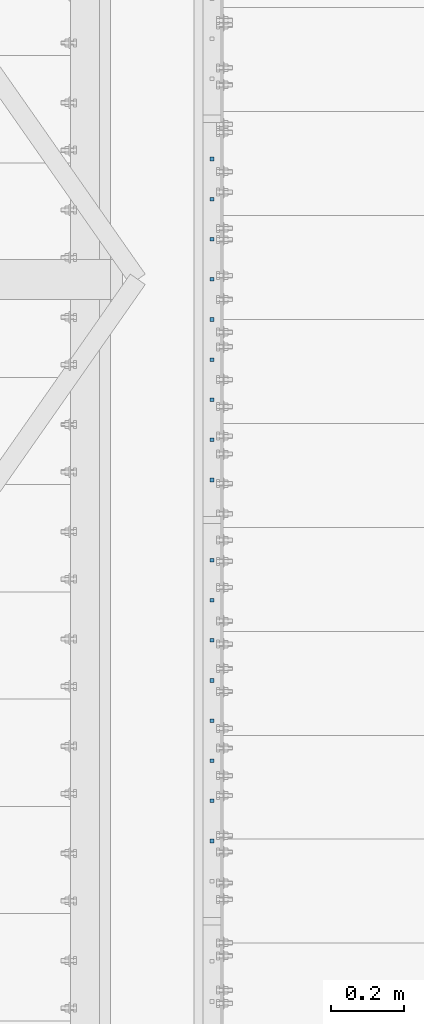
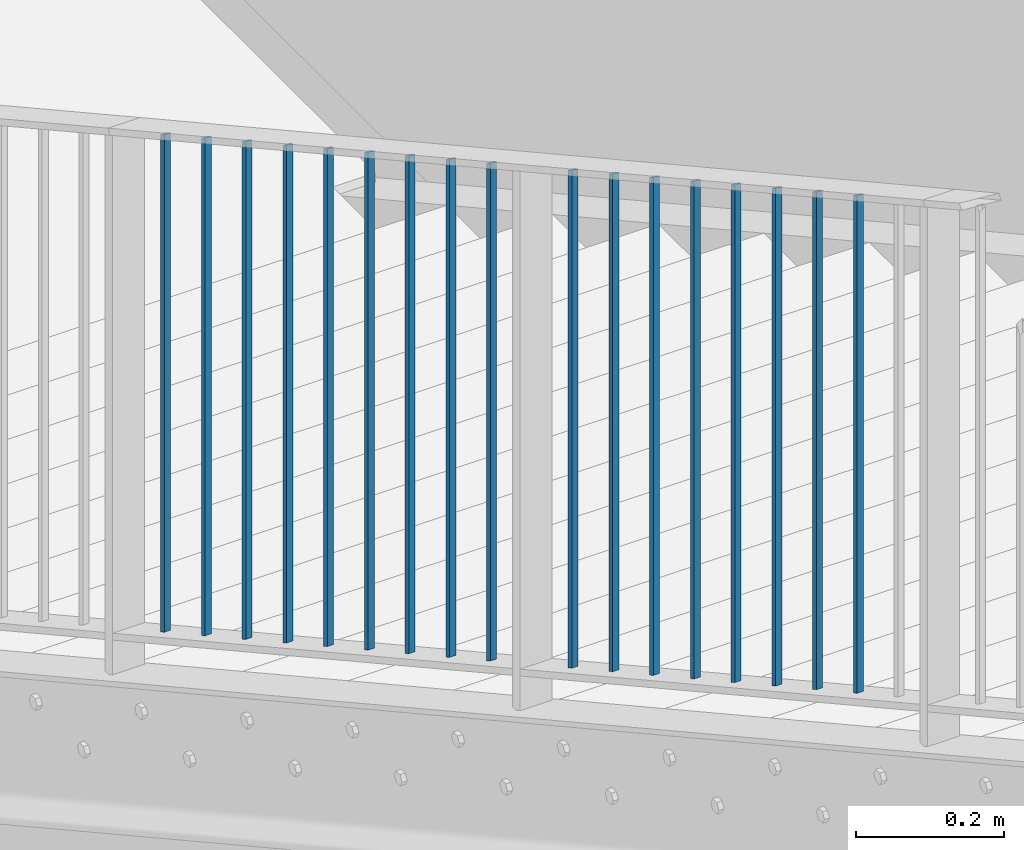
# One storey, part 41 of 78: 17 beams, 1 element without a shape of its own.
"""IFC2X3 building model written with IfcOpenShell, lengths in millimetres."""

from ifc_helpers import new_model, si_unit, frame, origin_with_axes, origin_2d_with_axis, place, context, subcontext, project, spatial, rectangle, extrude, clip, halfspace, material, type_object, element, aggregate, save


model = new_model("IFC2X3")

# Units and contexts
model_context = context("Model", 3, precision=1e-05, world=origin_with_axes())
body_context = subcontext(model_context, "Body", "Model", "MODEL_VIEW")
ifc_project = project(units=[si_unit("LENGTHUNIT", "METRE", prefix="MILLI"), si_unit("AREAUNIT", "SQUARE_METRE"), si_unit("VOLUMEUNIT", "CUBIC_METRE"), si_unit("MASSUNIT", "GRAM", prefix="KILO"), si_unit("TIMEUNIT", "SECOND"), si_unit("PLANEANGLEUNIT", "RADIAN"), si_unit("SOLIDANGLEUNIT", "STERADIAN"), si_unit("THERMODYNAMICTEMPERATUREUNIT", "DEGREE_CELSIUS"), si_unit("LUMINOUSINTENSITYUNIT", "LUMEN")], contexts=[model_context])

# Site, building, storey
site_placement = place(None, origin_with_axes())
site = spatial("IfcSite", under=ifc_project, at=site_placement, Name="Site", CompositionType="ELEMENT")
building_placement = place(site_placement, origin_with_axes())
building = spatial("IfcBuilding", under=site, at=building_placement, Name="Undefined", CompositionType="ELEMENT")
storey_placement = place(building_placement, origin_with_axes())
storey = spatial("IfcBuildingStorey", under=building, at=storey_placement, Name="Undefined", CompositionType="ELEMENT", Elevation=0.0)

# Assembly, beams
assembly_placement = place(storey_placement, origin_with_axes())
assembly = element("IfcElementAssembly", 1, at=assembly_placement, inside=storey, Name="MAIN_COURANTE", AssemblyPlace="NOTDEFINED", PredefinedType="RIGID_FRAME")
ifc_material = material(Name="STEEL/S235JR")
beam_type = type_object("IfcBeamType", Name="PL10*10", PredefinedType="NOTDEFINED")
beam_1_placement = place(assembly_placement, frame((-33012.8599999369, 5467.99999991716, 160109.590452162), z_axis=(1.0, 0.0, 0.0), x_axis=(0.0, 0.0, -1.0)))
beam_1 = element("IfcBeam", 2, at=beam_1_placement, type_object=beam_type, material=ifc_material, Name="LISSE", ObjectType="PL10*10", context=body_context, shape_type="Clipping", body=[
    clip(clip(extrude(rectangle(XDim=10.0, YDim=10.0, at=origin_2d_with_axis()), frame((831.449999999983, 0.0, 0.0), z_axis=(-1.0, 0.0, 0.0), x_axis=(0.0, -1.0, 0.0)), (0.0, 0.0, 1.0), 831.45), halfspace(frame((825.737291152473, 9.09494701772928e-13, 1005.0), z_axis=(0.875241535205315, -0.48368611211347, 0.0), x_axis=(0.48368611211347, 0.875241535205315, 0.0)), False)), halfspace(frame((5.71270869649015, 9.09494701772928e-13, 1005.0), z_axis=(-0.875241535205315, 0.483686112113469, 0.0), x_axis=(-0.483686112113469, -0.875241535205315, 0.0)), False)),
])
beam_2_placement = place(assembly_placement, frame((-33012.8599999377, 5577.99999991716, 160048.800978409), z_axis=(1.0, 0.0, 0.0), x_axis=(0.0, 0.0, -1.0)))
beam_2 = element("IfcBeam", 3, at=beam_2_placement, type_object=beam_type, material=ifc_material, Name="LISSE", ObjectType="PL10*10", context=body_context, shape_type="Clipping", body=[
    clip(clip(extrude(rectangle(XDim=10.0, YDim=10.0, at=origin_2d_with_axis()), frame((831.449999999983, 0.0, 0.0), z_axis=(-1.0, 0.0, 0.0), x_axis=(0.0, -1.0, 0.0)), (0.0, 0.0, 1.0), 831.45), halfspace(frame((825.737291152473, 9.09494701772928e-13, 1005.0), z_axis=(0.875241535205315, -0.48368611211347, 0.0), x_axis=(0.48368611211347, 0.875241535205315, 0.0)), False)), halfspace(frame((5.71270869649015, 9.09494701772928e-13, 1005.0), z_axis=(-0.875241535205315, 0.483686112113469, 0.0), x_axis=(-0.483686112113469, -0.875241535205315, 0.0)), False)),
])
beam_3_placement = place(assembly_placement, frame((-33012.8599999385, 5687.99999991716, 159988.011504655), z_axis=(1.0, 0.0, 0.0), x_axis=(0.0, 0.0, -1.0)))
beam_3 = element("IfcBeam", 4, at=beam_3_placement, type_object=beam_type, material=ifc_material, Name="LISSE", ObjectType="PL10*10", context=body_context, shape_type="Clipping", body=[
    clip(clip(extrude(rectangle(XDim=10.0, YDim=10.0, at=origin_2d_with_axis()), frame((831.449999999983, 0.0, 0.0), z_axis=(-1.0, 0.0, 0.0), x_axis=(0.0, -1.0, 0.0)), (0.0, 0.0, 1.0), 831.45), halfspace(frame((825.737291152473, 9.09494701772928e-13, 1005.0), z_axis=(0.875241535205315, -0.48368611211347, 0.0), x_axis=(0.48368611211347, 0.875241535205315, 0.0)), False)), halfspace(frame((5.71270869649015, 9.09494701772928e-13, 1005.0), z_axis=(-0.875241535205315, 0.483686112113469, 0.0), x_axis=(-0.483686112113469, -0.875241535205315, 0.0)), False)),
])
beam_4_placement = place(assembly_placement, frame((-33012.8599999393, 5797.99999991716, 159927.222030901), z_axis=(1.0, 0.0, 0.0), x_axis=(0.0, 0.0, -1.0)))
beam_4 = element("IfcBeam", 5, at=beam_4_placement, type_object=beam_type, material=ifc_material, Name="LISSE", ObjectType="PL10*10", context=body_context, shape_type="Clipping", body=[
    clip(clip(extrude(rectangle(XDim=10.0, YDim=10.0, at=origin_2d_with_axis()), frame((831.449999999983, 0.0, 0.0), z_axis=(-1.0, 0.0, 0.0), x_axis=(0.0, -1.0, 0.0)), (0.0, 0.0, 1.0), 831.45), halfspace(frame((825.737291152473, 9.09494701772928e-13, 1005.0), z_axis=(0.875241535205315, -0.48368611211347, 0.0), x_axis=(0.48368611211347, 0.875241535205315, 0.0)), False)), halfspace(frame((5.71270869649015, 9.09494701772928e-13, 1005.0), z_axis=(-0.875241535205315, 0.483686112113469, 0.0), x_axis=(-0.483686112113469, -0.875241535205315, 0.0)), False)),
])
beam_5_placement = place(assembly_placement, frame((-33012.8599999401, 5907.99999991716, 159866.432557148), z_axis=(1.0, 0.0, 0.0), x_axis=(0.0, 0.0, -1.0)))
beam_5 = element("IfcBeam", 6, at=beam_5_placement, type_object=beam_type, material=ifc_material, Name="LISSE", ObjectType="PL10*10", context=body_context, shape_type="Clipping", body=[
    clip(clip(extrude(rectangle(XDim=10.0, YDim=10.0, at=origin_2d_with_axis()), frame((831.449999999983, 0.0, 0.0), z_axis=(-1.0, 0.0, 0.0), x_axis=(0.0, -1.0, 0.0)), (0.0, 0.0, 1.0), 831.45), halfspace(frame((825.737291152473, 9.09494701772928e-13, 1005.0), z_axis=(0.875241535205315, -0.48368611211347, 0.0), x_axis=(0.48368611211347, 0.875241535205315, 0.0)), False)), halfspace(frame((5.71270869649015, 9.09494701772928e-13, 1005.0), z_axis=(-0.875241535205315, 0.483686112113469, 0.0), x_axis=(-0.483686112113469, -0.875241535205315, 0.0)), False)),
])
beam_6_placement = place(assembly_placement, frame((-33012.8599999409, 6017.99999991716, 159805.643083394), z_axis=(1.0, 0.0, 0.0), x_axis=(0.0, 0.0, -1.0)))
beam_6 = element("IfcBeam", 7, at=beam_6_placement, type_object=beam_type, material=ifc_material, Name="LISSE", ObjectType="PL10*10", context=body_context, shape_type="Clipping", body=[
    clip(clip(extrude(rectangle(XDim=10.0, YDim=10.0, at=origin_2d_with_axis()), frame((831.449999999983, 0.0, 0.0), z_axis=(-1.0, 0.0, 0.0), x_axis=(0.0, -1.0, 0.0)), (0.0, 0.0, 1.0), 831.45), halfspace(frame((825.737291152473, 9.09494701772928e-13, 1005.0), z_axis=(0.875241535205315, -0.48368611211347, 0.0), x_axis=(0.48368611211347, 0.875241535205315, 0.0)), False)), halfspace(frame((5.71270869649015, 9.09494701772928e-13, 1005.0), z_axis=(-0.875241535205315, 0.483686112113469, 0.0), x_axis=(-0.483686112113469, -0.875241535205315, 0.0)), False)),
])
beam_7_placement = place(assembly_placement, frame((-33012.8599999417, 6127.99999991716, 159744.85360964), z_axis=(1.0, 0.0, 0.0), x_axis=(0.0, 0.0, -1.0)))
beam_7 = element("IfcBeam", 8, at=beam_7_placement, type_object=beam_type, material=ifc_material, Name="LISSE", ObjectType="PL10*10", context=body_context, shape_type="Clipping", body=[
    clip(clip(extrude(rectangle(XDim=10.0, YDim=10.0, at=origin_2d_with_axis()), frame((831.449999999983, 0.0, 0.0), z_axis=(-1.0, 0.0, 0.0), x_axis=(0.0, -1.0, 0.0)), (0.0, 0.0, 1.0), 831.45), halfspace(frame((825.737291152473, 9.09494701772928e-13, 1005.0), z_axis=(0.875241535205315, -0.48368611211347, 0.0), x_axis=(0.48368611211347, 0.875241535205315, 0.0)), False)), halfspace(frame((5.71270869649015, 9.09494701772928e-13, 1005.0), z_axis=(-0.875241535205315, 0.483686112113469, 0.0), x_axis=(-0.483686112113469, -0.875241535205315, 0.0)), False)),
])
beam_8_placement = place(assembly_placement, frame((-33012.8599999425, 6237.99999991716, 159684.064135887), z_axis=(1.0, 0.0, 0.0), x_axis=(0.0, 0.0, -1.0)))
beam_8 = element("IfcBeam", 9, at=beam_8_placement, type_object=beam_type, material=ifc_material, Name="LISSE", ObjectType="PL10*10", context=body_context, shape_type="Clipping", body=[
    clip(clip(extrude(rectangle(XDim=10.0, YDim=10.0, at=origin_2d_with_axis()), frame((831.449999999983, 0.0, 0.0), z_axis=(-1.0, 0.0, 0.0), x_axis=(0.0, -1.0, 0.0)), (0.0, 0.0, 1.0), 831.45), halfspace(frame((825.737291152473, 9.09494701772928e-13, 1005.0), z_axis=(0.875241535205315, -0.48368611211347, 0.0), x_axis=(0.48368611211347, 0.875241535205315, 0.0)), False)), halfspace(frame((5.71270869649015, 9.09494701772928e-13, 1005.0), z_axis=(-0.875241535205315, 0.483686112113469, 0.0), x_axis=(-0.483686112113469, -0.875241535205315, 0.0)), False)),
])
beam_9_placement = place(assembly_placement, frame((-33012.8599999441, 6457.99999989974, 159562.485188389), z_axis=(1.0, 0.0, 0.0), x_axis=(0.0, 0.0, -1.0)))
beam_9 = element("IfcBeam", 10, at=beam_9_placement, type_object=beam_type, material=ifc_material, Name="LISSE", ObjectType="PL10*10", context=body_context, shape_type="Clipping", body=[
    clip(clip(extrude(rectangle(XDim=10.0, YDim=10.0, at=origin_2d_with_axis()), frame((831.449999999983, 0.0, 0.0), z_axis=(-1.0, 0.0, 0.0), x_axis=(0.0, -1.0, 0.0)), (0.0, 0.0, 1.0), 831.45), halfspace(frame((825.737291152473, 9.09494701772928e-13, 1005.0), z_axis=(0.875241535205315, -0.48368611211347, 0.0), x_axis=(0.48368611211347, 0.875241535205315, 0.0)), False)), halfspace(frame((5.71270869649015, 9.09494701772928e-13, 1005.0), z_axis=(-0.875241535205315, 0.483686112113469, 0.0), x_axis=(-0.483686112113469, -0.875241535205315, 0.0)), False)),
])
beam_10_placement = place(assembly_placement, frame((-33012.8599999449, 6567.99999989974, 159501.695714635), z_axis=(1.0, 0.0, 0.0), x_axis=(0.0, 0.0, -1.0)))
beam_10 = element("IfcBeam", 11, at=beam_10_placement, type_object=beam_type, material=ifc_material, Name="LISSE", ObjectType="PL10*10", context=body_context, shape_type="Clipping", body=[
    clip(clip(extrude(rectangle(XDim=10.0, YDim=10.0, at=origin_2d_with_axis()), frame((831.449999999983, 0.0, 0.0), z_axis=(-1.0, 0.0, 0.0), x_axis=(0.0, -1.0, 0.0)), (0.0, 0.0, 1.0), 831.45), halfspace(frame((825.737291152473, 9.09494701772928e-13, 1005.0), z_axis=(0.875241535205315, -0.48368611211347, 0.0), x_axis=(0.48368611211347, 0.875241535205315, 0.0)), False)), halfspace(frame((5.71270869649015, 9.09494701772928e-13, 1005.0), z_axis=(-0.875241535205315, 0.483686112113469, 0.0), x_axis=(-0.483686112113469, -0.875241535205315, 0.0)), False)),
])
beam_11_placement = place(assembly_placement, frame((-33012.8599999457, 6677.99999989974, 159440.906240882), z_axis=(1.0, 0.0, 0.0), x_axis=(0.0, 0.0, -1.0)))
beam_11 = element("IfcBeam", 12, at=beam_11_placement, type_object=beam_type, material=ifc_material, Name="LISSE", ObjectType="PL10*10", context=body_context, shape_type="Clipping", body=[
    clip(clip(extrude(rectangle(XDim=10.0, YDim=10.0, at=origin_2d_with_axis()), frame((831.449999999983, 0.0, 0.0), z_axis=(-1.0, 0.0, 0.0), x_axis=(0.0, -1.0, 0.0)), (0.0, 0.0, 1.0), 831.45), halfspace(frame((825.737291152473, 9.09494701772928e-13, 1005.0), z_axis=(0.875241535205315, -0.48368611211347, 0.0), x_axis=(0.48368611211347, 0.875241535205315, 0.0)), False)), halfspace(frame((5.71270869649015, 9.09494701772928e-13, 1005.0), z_axis=(-0.875241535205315, 0.483686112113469, 0.0), x_axis=(-0.483686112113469, -0.875241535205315, 0.0)), False)),
])
beam_12_placement = place(assembly_placement, frame((-33012.8599999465, 6787.99999989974, 159380.116767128), z_axis=(1.0, 0.0, 0.0), x_axis=(0.0, 0.0, -1.0)))
beam_12 = element("IfcBeam", 13, at=beam_12_placement, type_object=beam_type, material=ifc_material, Name="LISSE", ObjectType="PL10*10", context=body_context, shape_type="Clipping", body=[
    clip(clip(extrude(rectangle(XDim=10.0, YDim=10.0, at=origin_2d_with_axis()), frame((831.449999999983, 0.0, 0.0), z_axis=(-1.0, 0.0, 0.0), x_axis=(0.0, -1.0, 0.0)), (0.0, 0.0, 1.0), 831.45), halfspace(frame((825.737291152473, 9.09494701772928e-13, 1005.0), z_axis=(0.875241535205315, -0.48368611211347, 0.0), x_axis=(0.48368611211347, 0.875241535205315, 0.0)), False)), halfspace(frame((5.71270869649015, 9.09494701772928e-13, 1005.0), z_axis=(-0.875241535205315, 0.483686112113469, 0.0), x_axis=(-0.483686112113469, -0.875241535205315, 0.0)), False)),
])
beam_13_placement = place(assembly_placement, frame((-33012.8599999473, 6897.99999989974, 159319.327293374), z_axis=(1.0, 0.0, 0.0), x_axis=(0.0, 0.0, -1.0)))
beam_13 = element("IfcBeam", 14, at=beam_13_placement, type_object=beam_type, material=ifc_material, Name="LISSE", ObjectType="PL10*10", context=body_context, shape_type="Clipping", body=[
    clip(clip(extrude(rectangle(XDim=10.0, YDim=10.0, at=origin_2d_with_axis()), frame((831.449999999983, 0.0, 0.0), z_axis=(-1.0, 0.0, 0.0), x_axis=(0.0, -1.0, 0.0)), (0.0, 0.0, 1.0), 831.45), halfspace(frame((825.737291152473, 9.09494701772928e-13, 1005.0), z_axis=(0.875241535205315, -0.48368611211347, 0.0), x_axis=(0.48368611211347, 0.875241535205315, 0.0)), False)), halfspace(frame((5.71270869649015, 9.09494701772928e-13, 1005.0), z_axis=(-0.875241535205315, 0.483686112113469, 0.0), x_axis=(-0.483686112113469, -0.875241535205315, 0.0)), False)),
])
beam_14_placement = place(assembly_placement, frame((-33012.8599999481, 7007.99999989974, 159258.537819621), z_axis=(1.0, 0.0, 0.0), x_axis=(0.0, 0.0, -1.0)))
beam_14 = element("IfcBeam", 15, at=beam_14_placement, type_object=beam_type, material=ifc_material, Name="LISSE", ObjectType="PL10*10", context=body_context, shape_type="Clipping", body=[
    clip(clip(extrude(rectangle(XDim=10.0, YDim=10.0, at=origin_2d_with_axis()), frame((831.449999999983, 0.0, 0.0), z_axis=(-1.0, 0.0, 0.0), x_axis=(0.0, -1.0, 0.0)), (0.0, 0.0, 1.0), 831.45), halfspace(frame((825.737291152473, 9.09494701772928e-13, 1005.0), z_axis=(0.875241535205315, -0.48368611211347, 0.0), x_axis=(0.48368611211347, 0.875241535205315, 0.0)), False)), halfspace(frame((5.71270869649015, 9.09494701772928e-13, 1005.0), z_axis=(-0.875241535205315, 0.483686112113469, 0.0), x_axis=(-0.483686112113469, -0.875241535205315, 0.0)), False)),
])
beam_15_placement = place(assembly_placement, frame((-33012.8599999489, 7117.99999989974, 159197.748345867), z_axis=(1.0, 0.0, 0.0), x_axis=(0.0, 0.0, -1.0)))
beam_15 = element("IfcBeam", 16, at=beam_15_placement, type_object=beam_type, material=ifc_material, Name="LISSE", ObjectType="PL10*10", context=body_context, shape_type="Clipping", body=[
    clip(clip(extrude(rectangle(XDim=10.0, YDim=10.0, at=origin_2d_with_axis()), frame((831.449999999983, 0.0, 0.0), z_axis=(-1.0, 0.0, 0.0), x_axis=(0.0, -1.0, 0.0)), (0.0, 0.0, 1.0), 831.45), halfspace(frame((825.737291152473, 9.09494701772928e-13, 1005.0), z_axis=(0.875241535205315, -0.48368611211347, 0.0), x_axis=(0.48368611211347, 0.875241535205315, 0.0)), False)), halfspace(frame((5.71270869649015, 9.09494701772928e-13, 1005.0), z_axis=(-0.875241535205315, 0.483686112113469, 0.0), x_axis=(-0.483686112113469, -0.875241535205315, 0.0)), False)),
])
beam_16_placement = place(assembly_placement, frame((-33012.8599999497, 7227.99999989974, 159136.958872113), z_axis=(1.0, 0.0, 0.0), x_axis=(0.0, 0.0, -1.0)))
beam_16 = element("IfcBeam", 17, at=beam_16_placement, type_object=beam_type, material=ifc_material, Name="LISSE", ObjectType="PL10*10", context=body_context, shape_type="Clipping", body=[
    clip(clip(extrude(rectangle(XDim=10.0, YDim=10.0, at=origin_2d_with_axis()), frame((831.449999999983, 0.0, 0.0), z_axis=(-1.0, 0.0, 0.0), x_axis=(0.0, -1.0, 0.0)), (0.0, 0.0, 1.0), 831.45), halfspace(frame((825.737291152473, 9.09494701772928e-13, 1005.0), z_axis=(0.875241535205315, -0.48368611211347, 0.0), x_axis=(0.48368611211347, 0.875241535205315, 0.0)), False)), halfspace(frame((5.71270869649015, 9.09494701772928e-13, 1005.0), z_axis=(-0.875241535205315, 0.483686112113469, 0.0), x_axis=(-0.483686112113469, -0.875241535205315, 0.0)), False)),
])
beam_17_placement = place(assembly_placement, frame((-33012.8599999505, 7337.99999989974, 159076.16939836), z_axis=(1.0, 0.0, 0.0), x_axis=(0.0, 0.0, -1.0)))
beam_17 = element("IfcBeam", 18, at=beam_17_placement, type_object=beam_type, material=ifc_material, Name="LISSE", ObjectType="PL10*10", context=body_context, shape_type="Clipping", body=[
    clip(clip(extrude(rectangle(XDim=10.0, YDim=10.0, at=origin_2d_with_axis()), frame((831.449999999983, 0.0, 0.0), z_axis=(-1.0, 0.0, 0.0), x_axis=(0.0, -1.0, 0.0)), (0.0, 0.0, 1.0), 831.45), halfspace(frame((825.737291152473, 9.09494701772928e-13, 1005.0), z_axis=(0.875241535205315, -0.48368611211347, 0.0), x_axis=(0.48368611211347, 0.875241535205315, 0.0)), False)), halfspace(frame((5.71270869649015, 9.09494701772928e-13, 1005.0), z_axis=(-0.875241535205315, 0.483686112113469, 0.0), x_axis=(-0.483686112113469, -0.875241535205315, 0.0)), False)),
])
aggregate(assembly, [beam_1, beam_2, beam_3, beam_4, beam_5, beam_6, beam_7, beam_8, beam_9, beam_10, beam_11, beam_12, beam_13, beam_14, beam_15, beam_16, beam_17])

save(model, "model.ifc")
